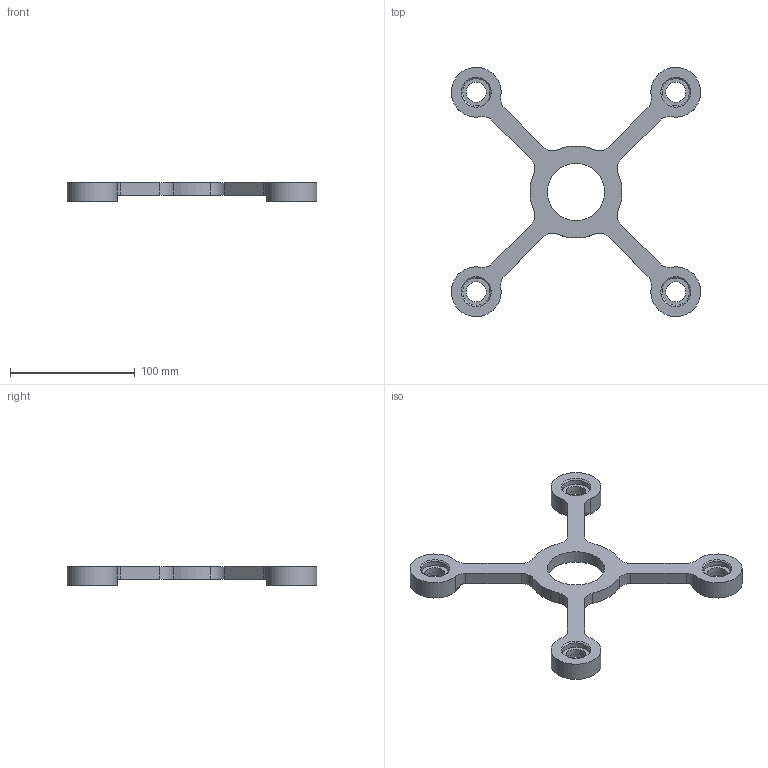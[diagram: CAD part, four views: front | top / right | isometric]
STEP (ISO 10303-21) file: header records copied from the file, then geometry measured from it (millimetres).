
FILE_DESCRIPTION(/* description */ ('','CAx-IF Rec.Pracs.---Representation and Presentation of Product Manufacturing Information (PMI)---4.0---2014-10-13'),/* implementation_level */ '2;1');
FILE_NAME(/* name */ 'base 20 20.step',/* time_stamp */ '2025-03-18T20:31:07+01:00',/* author */ (''),/* organization */ (''),/* preprocessor_version */ 'ST-DEVELOPER v20',/* originating_system */ 'Autodesk Translation Framework v13.20.0.188',/* authorisation */ '');
FILE_SCHEMA (('AP242_MANAGED_MODEL_BASED_3D_ENGINEERING_MIM_LF { 1 0 10303 442 1 1 4 }'));
Length unit declared in the file: millimetre
Products named in the file (1): base
Bounding box: 199.93 x 199.93 x 15 mm (x, y, z)
Volume: 115815 mm3; surface area: 38369.8 mm2
Topology: 1 solids, 1 shells, 67 faces, 163 edges, 106 vertices
Faces by surface type: cylinder 37, plane 22, cone 4, torus 4
Full cylindrical faces by diameter (mm): 16 x4, 22 x8, 46 x1
Entity records: 2120 total; most frequent: CARTESIAN_POINT 417, DIRECTION 381, ORIENTED_EDGE 326, EDGE_CURVE 163, AXIS2_PLACEMENT_3D 158, VERTEX_POINT 106, CIRCLE 90, EDGE_LOOP 85
